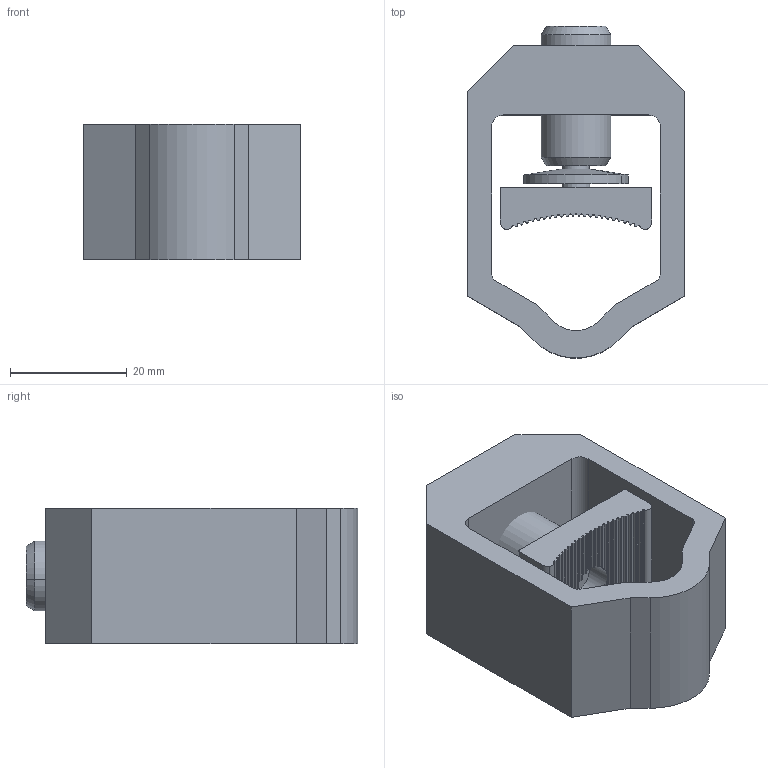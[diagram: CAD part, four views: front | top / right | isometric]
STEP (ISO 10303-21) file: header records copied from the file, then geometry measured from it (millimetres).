
FILE_DESCRIPTION (( 'STEP AP214' ), '1' );
FILE_NAME ('70-300SW.STEP', '2010-03-18T11:16:03', ( '£ukaszC' ), ( '' ), 'SwSTEP 2.0', 'SolidWorks 2008', '' );
FILE_SCHEMA (( 'AUTOMOTIVE_DESIGN' ));
Length unit declared in the file: millimetre
Products named in the file (5): 4.50240SW.03.00.00; 4.70300SW.02.00.00_Domyœlna; 4.95300SW.02.00.00; 4.95300SW.01.00.00; 70-300SW
Assembly tree (4 placements, depth 2):
  70-300SW
    4.70300SW.02.00.00_Domyœlna
    4.95300SW.01.00.00
    4.50240SW.03.00.00
    4.95300SW.02.00.00
Bounding box: 37.4 x 56.95 x 23.2 mm (x, y, z)
Volume: 23783.9 mm3; surface area: 12188.3 mm2
Topology: 4 solids, 4 shells, 261 faces, 743 edges, 489 vertices
Faces by surface type: cylinder 146, plane 99, cone 16
Entity records: 8907 total; most frequent: CARTESIAN_POINT 1896, ORIENTED_EDGE 1482, DIRECTION 1423, EDGE_CURVE 741, AXIS2_PLACEMENT_3D 512, VERTEX_POINT 489, VECTOR 399, LINE 399
